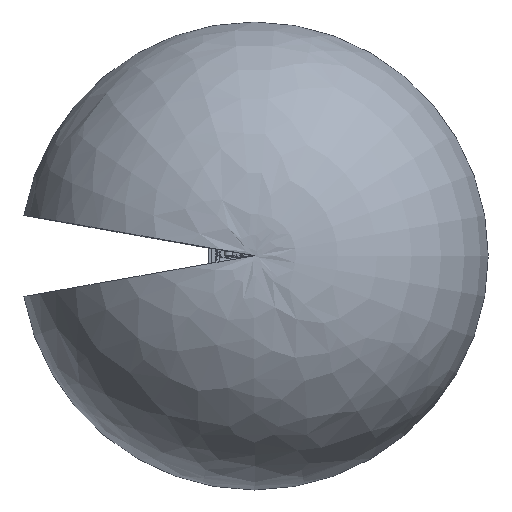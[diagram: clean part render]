
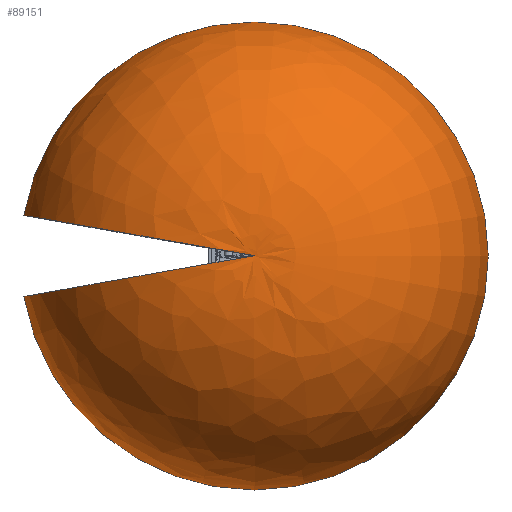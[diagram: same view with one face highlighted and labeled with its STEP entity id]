
A CAD part, top view. The second image highlights one B-rep face of the part: STEP entity #89151.
In plain terms, the highlighted free-form (B-spline) face has degree [2, 2] with [5, 9] control points.
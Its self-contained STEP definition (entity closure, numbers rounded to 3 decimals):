
#25483=FACE_OUTER_BOUND('',#30819,.T.);
#30819=EDGE_LOOP('',(#62378,#62379,#62380));
#37252=CIRCLE('',#94856,3191.058);
#37259=CIRCLE('',#94863,2882.161);
#37260=CIRCLE('',#94864,2882.161);
#40131=VERTEX_POINT('',#128251);
#40132=VERTEX_POINT('',#128253);
#40136=VERTEX_POINT('',#128381);
#49066=EDGE_CURVE('',#40132,#40131,#37252,.T.);
#49073=EDGE_CURVE('',#40136,#40131,#37259,.T.);
#49074=EDGE_CURVE('',#40136,#40132,#37260,.T.);
#62378=ORIENTED_EDGE('',*,*,#49066,.T.);
#62379=ORIENTED_EDGE('',*,*,#49073,.F.);
#62380=ORIENTED_EDGE('',*,*,#49074,.T.);
#88976=(
BOUNDED_SURFACE()
B_SPLINE_SURFACE(2,2,((#128336,#128337,#128338,#128339,#128340,#128341,
#128342,#128343,#128344),(#128345,#128346,#128347,#128348,#128349,#128350,
#128351,#128352,#128353),(#128354,#128355,#128356,#128357,#128358,#128359,
#128360,#128361,#128362),(#128363,#128364,#128365,#128366,#128367,#128368,
#128369,#128370,#128371),(#128372,#128373,#128374,#128375,#128376,#128377,
#128378,#128379,#128380)),.UNSPECIFIED.,.F.,.F.,.F.)
B_SPLINE_SURFACE_WITH_KNOTS((3,2,3),(3,2,2,2,3),(0.088,0.885,
1.682),(-2.967,-1.484,0.,1.484,
2.967),.UNSPECIFIED.)
GEOMETRIC_REPRESENTATION_ITEM()
RATIONAL_B_SPLINE_SURFACE(((1.,0.737,1.,0.737,1.,
0.737,1.,0.737,1.),(0.922,0.679,
0.922,0.679,0.922,0.679,
0.922,0.679,0.922),(1.,0.737,
1.,0.737,1.,0.737,1.,0.737,1.),(0.922,
0.679,0.922,0.679,0.922,
0.679,0.922,0.679,0.922),
(1.,0.737,1.,0.737,1.,0.737,1.,0.737,
1.)))
REPRESENTATION_ITEM('')
SURFACE()
);
#89151=ADVANCED_FACE('',(#25483),#88976,.F.);
#94856=AXIS2_PLACEMENT_3D('',#128254,#103314,#103315);
#94863=AXIS2_PLACEMENT_3D('',#128382,#103328,#103329);
#94864=AXIS2_PLACEMENT_3D('',#128383,#103330,#103331);
#103314=DIRECTION('center_axis',(0.,0.,1.));
#103315=DIRECTION('ref_axis',(1.,0.,0.));
#103328=DIRECTION('center_axis',(-0.174,-0.985,
0.));
#103329=DIRECTION('ref_axis',(0.,0.,-1.));
#103330=DIRECTION('center_axis',(0.174,-0.985,0.));
#103331=DIRECTION('ref_axis',(0.,0.,-1.));
#128251=CARTESIAN_POINT('',(-3142.578,554.121,1032.75));
#128253=CARTESIAN_POINT('',(-3142.578,-554.121,1032.75));
#128254=CARTESIAN_POINT('Origin',(0.,0.,1032.75));
#128336=CARTESIAN_POINT('Ctrl Pts',(-3142.578,-554.121,
1032.75));
#128337=CARTESIAN_POINT('Ctrl Pts',(-2634.82,-3433.764,
1032.75));
#128338=CARTESIAN_POINT('Ctrl Pts',(278.119,-3178.915,
1032.75));
#128339=CARTESIAN_POINT('Ctrl Pts',(3191.058,-2924.066,1032.75));
#128340=CARTESIAN_POINT('Ctrl Pts',(3191.058,0.,1032.75));
#128341=CARTESIAN_POINT('Ctrl Pts',(3191.058,2924.066,1032.75));
#128342=CARTESIAN_POINT('Ctrl Pts',(278.119,3178.915,1032.75));
#128343=CARTESIAN_POINT('Ctrl Pts',(-2634.82,3433.764,1032.75));
#128344=CARTESIAN_POINT('Ctrl Pts',(-3142.578,554.121,
1032.75));
#128345=CARTESIAN_POINT('Ctrl Pts',(-3037.763,-535.64,
2241.748));
#128346=CARTESIAN_POINT('Ctrl Pts',(-2546.94,-3319.236,
2241.748));
#128347=CARTESIAN_POINT('Ctrl Pts',(268.843,-3072.887,
2241.748));
#128348=CARTESIAN_POINT('Ctrl Pts',(3084.625,-2826.538,
2241.748));
#128349=CARTESIAN_POINT('Ctrl Pts',(3084.625,0.,2241.748));
#128350=CARTESIAN_POINT('Ctrl Pts',(3084.625,2826.538,2241.748));
#128351=CARTESIAN_POINT('Ctrl Pts',(268.843,3072.887,2241.748));
#128352=CARTESIAN_POINT('Ctrl Pts',(-2546.94,3319.236,
2241.748));
#128353=CARTESIAN_POINT('Ctrl Pts',(-3037.763,535.64,
2241.748));
#128354=CARTESIAN_POINT('Ctrl Pts',(-2112.804,-372.544,
3010.421));
#128355=CARTESIAN_POINT('Ctrl Pts',(-1771.43,-2308.573,
3010.421));
#128356=CARTESIAN_POINT('Ctrl Pts',(186.984,-2137.234,
3010.421));
#128357=CARTESIAN_POINT('Ctrl Pts',(2145.398,-1965.895,
3010.421));
#128358=CARTESIAN_POINT('Ctrl Pts',(2145.398,0.,3010.421));
#128359=CARTESIAN_POINT('Ctrl Pts',(2145.398,1965.895,3010.421));
#128360=CARTESIAN_POINT('Ctrl Pts',(186.984,2137.234,3010.421));
#128361=CARTESIAN_POINT('Ctrl Pts',(-1771.43,2308.573,
3010.421));
#128362=CARTESIAN_POINT('Ctrl Pts',(-2112.804,372.544,
3010.421));
#128363=CARTESIAN_POINT('Ctrl Pts',(-1187.846,-209.449,
3779.093));
#128364=CARTESIAN_POINT('Ctrl Pts',(-995.921,-1297.91,
3779.093));
#128365=CARTESIAN_POINT('Ctrl Pts',(105.125,-1201.581,3779.093));
#128366=CARTESIAN_POINT('Ctrl Pts',(1206.171,-1105.252,
3779.093));
#128367=CARTESIAN_POINT('Ctrl Pts',(1206.171,0.,3779.093));
#128368=CARTESIAN_POINT('Ctrl Pts',(1206.171,1105.252,3779.093));
#128369=CARTESIAN_POINT('Ctrl Pts',(105.125,1201.581,3779.093));
#128370=CARTESIAN_POINT('Ctrl Pts',(-995.921,1297.91,
3779.093));
#128371=CARTESIAN_POINT('Ctrl Pts',(-1187.846,209.449,
3779.093));
#128372=CARTESIAN_POINT('Ctrl Pts',(0.,0.,
3644.342));
#128373=CARTESIAN_POINT('Ctrl Pts',(0.,0.,
3644.342));
#128374=CARTESIAN_POINT('Ctrl Pts',(0.,0.,
3644.342));
#128375=CARTESIAN_POINT('Ctrl Pts',(0.,0.,
3644.342));
#128376=CARTESIAN_POINT('Ctrl Pts',(0.,0.,3644.342));
#128377=CARTESIAN_POINT('Ctrl Pts',(0.,0.,
3644.342));
#128378=CARTESIAN_POINT('Ctrl Pts',(0.,0.,
3644.342));
#128379=CARTESIAN_POINT('Ctrl Pts',(0.,0.,
3644.342));
#128380=CARTESIAN_POINT('Ctrl Pts',(0.,0.,
3644.342));
#128381=CARTESIAN_POINT('',(0.,0.,3644.342));
#128382=CARTESIAN_POINT('Origin',(-315.138,55.567,780.));
#128383=CARTESIAN_POINT('Origin',(-315.138,-55.567,780.));
